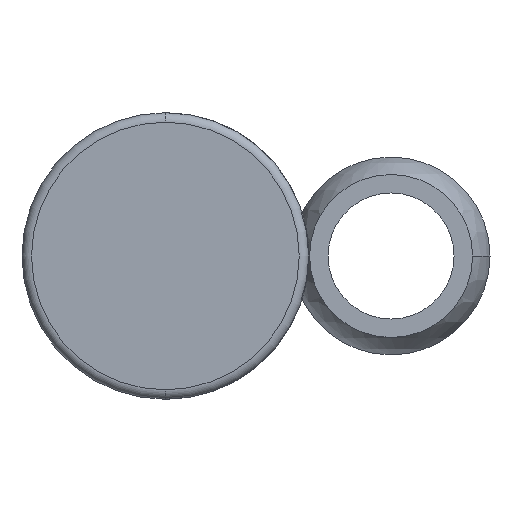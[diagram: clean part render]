
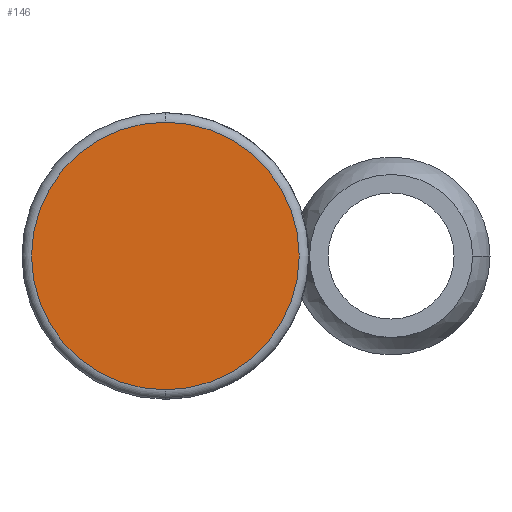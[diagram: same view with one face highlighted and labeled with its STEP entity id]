
A CAD part, front view. The second image highlights one B-rep face of the part: STEP entity #146.
In plain terms, the highlighted planar face has unit normal (0, -1, 0).
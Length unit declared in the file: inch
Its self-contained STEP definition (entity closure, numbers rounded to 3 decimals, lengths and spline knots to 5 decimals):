
#54 = CIRCLE ( 'NONE', #935, 0.42276 ) ;
#88 = CIRCLE ( 'NONE', #278, 0.42276 ) ;
#138 = CARTESIAN_POINT ( 'NONE',  ( 0., -1.575, 0.42276 ) ) ;
#146 = ADVANCED_FACE ( 'NONE', ( #1247 ), #773, .F. ) ;
#269 = ORIENTED_EDGE ( 'NONE', *, *, #1012, .T. ) ;
#278 = AXIS2_PLACEMENT_3D ( 'NONE', #750, #569, #955 ) ;
#287 = DIRECTION ( 'NONE',  ( 0., -1., 0. ) ) ;
#384 = DIRECTION ( 'NONE',  ( 0., 0., 1. ) ) ;
#391 = CARTESIAN_POINT ( 'NONE',  ( 0., -1.575, 0. ) ) ;
#471 = CARTESIAN_POINT ( 'NONE',  ( 0., -1.575, -0.42276 ) ) ;
#563 = CARTESIAN_POINT ( 'NONE',  ( 0., -1.575, 0. ) ) ;
#569 = DIRECTION ( 'NONE',  ( 0., -1., 0. ) ) ;
#750 = CARTESIAN_POINT ( 'NONE',  ( 0., -1.575, 0. ) ) ;
#773 = PLANE ( 'NONE',  #1242 ) ;
#784 = DIRECTION ( 'NONE',  ( 0., 0., 1. ) ) ;
#881 = ORIENTED_EDGE ( 'NONE', *, *, #1156, .T. ) ;
#935 = AXIS2_PLACEMENT_3D ( 'NONE', #391, #287, #784 ) ;
#955 = DIRECTION ( 'NONE',  ( 0., 0., 1. ) ) ;
#1012 = EDGE_CURVE ( 'NONE', #1171, #1069, #88, .T. ) ;
#1069 = VERTEX_POINT ( 'NONE', #138 ) ;
#1073 = EDGE_LOOP ( 'NONE', ( #881, #269 ) ) ;
#1156 = EDGE_CURVE ( 'NONE', #1069, #1171, #54, .T. ) ;
#1171 = VERTEX_POINT ( 'NONE', #471 ) ;
#1191 = DIRECTION ( 'NONE',  ( 0., 1., 0. ) ) ;
#1242 = AXIS2_PLACEMENT_3D ( 'NONE', #563, #1191, #384 ) ;
#1247 = FACE_OUTER_BOUND ( 'NONE', #1073, .T. ) ;
